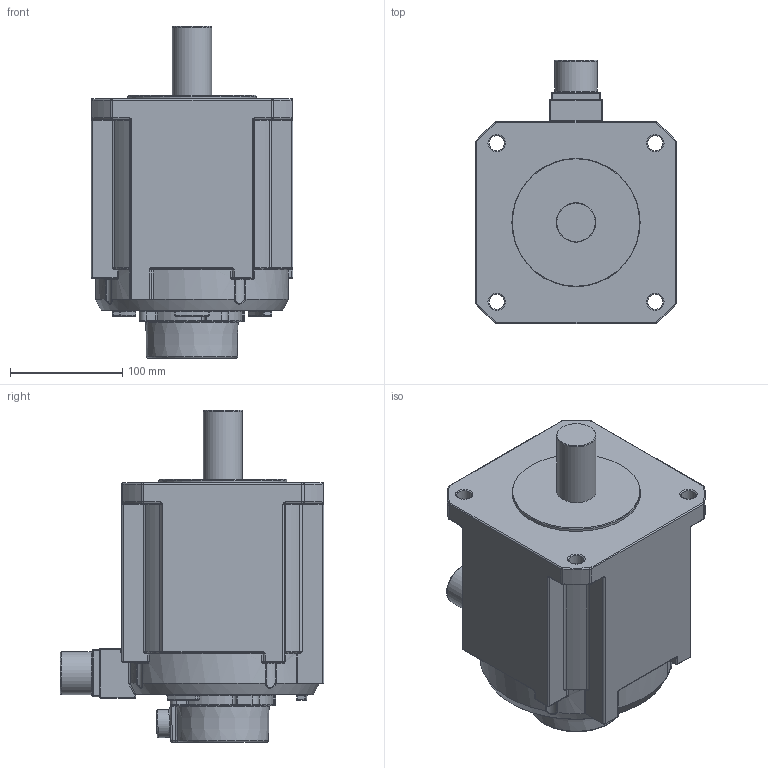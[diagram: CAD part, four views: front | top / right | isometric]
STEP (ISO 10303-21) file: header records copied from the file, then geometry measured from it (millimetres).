
FILE_DESCRIPTION(/* description */ (''),/* implementation_level */ '2;1');
FILE_NAME(/* name */ '01-180BAH35015.stp',/* time_stamp */ '2020-08-27T15:25:29+08:00',/* author */ (''),/* organization */ (''),/* preprocessor_version */ 'ST-DEVELOPER v16',/* originating_system */ 'SIEMENS PLM Software NX 10.0',/* authorisation */ '');
FILE_SCHEMA (('CONFIG_CONTROL_DESIGN'));
Length unit declared in the file: millimetre
Products named in the file (1): 01-180BAH35015
Bounding box: 180 x 235 x 296 mm (x, y, z)
Volume: 5621045.3 mm3; surface area: 218952.7 mm2
Topology: 1 solids, 1 shells, 607 faces, 1433 edges, 783 vertices
Faces by surface type: cylinder 235, torus 177, bspline 90, plane 75, sphere 22, cone 8
Full cylindrical faces by diameter (mm): 6.8 x2, 13.5 x4, 25 x1, 35 x1, 38 x1, 114.3 x1
Entity records: 19487 total; most frequent: CARTESIAN_POINT 6036, DIRECTION 3045, ORIENTED_EDGE 2694, EDGE_CURVE 1347, AXIS2_PLACEMENT_3D 1325, CIRCLE 797, VERTEX_POINT 780, EDGE_LOOP 651
